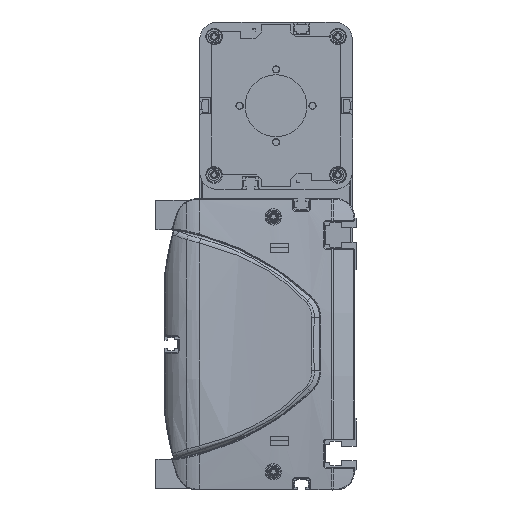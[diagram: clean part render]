
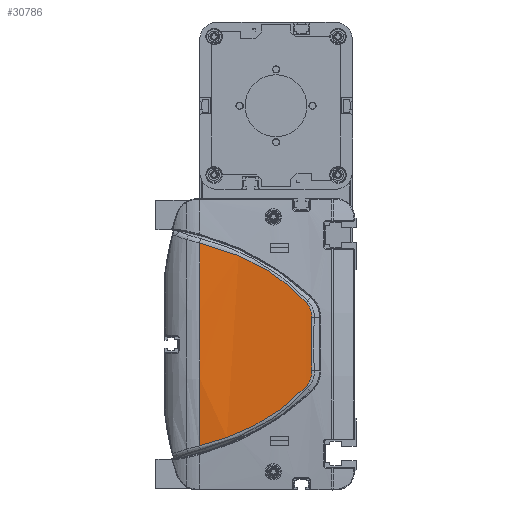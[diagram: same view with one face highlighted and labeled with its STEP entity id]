
A CAD part, left-side view. The second image highlights one B-rep face of the part: STEP entity #30786.
In plain terms, the highlighted cylindrical face has radius 600 mm (diameter 1200 mm), a partial arc.
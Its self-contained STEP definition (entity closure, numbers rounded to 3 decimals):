
#6171=CARTESIAN_POINT('',(-12.406,86.,55.736));
#6172=CARTESIAN_POINT('',(-12.529,80.495,54.41));
#6173=CARTESIAN_POINT('',(-12.828,69.636,51.114));
#6174=CARTESIAN_POINT('',(-13.389,54.079,44.179));
#6175=CARTESIAN_POINT('',(-14.01,39.709,34.979));
#6176=CARTESIAN_POINT('',(-14.395,31.353,27.243));
#6177=CARTESIAN_POINT('',(-14.555,27.451,23.113));
#6179=CARTESIAN_POINT('',(-14.555,27.451,23.113));
#6180=CARTESIAN_POINT('',(-14.641,25.336,20.875));
#6181=CARTESIAN_POINT('',(-14.745,24.202,17.745));
#6182=CARTESIAN_POINT('',(-14.821,24.351,14.67));
#6184=CARTESIAN_POINT('',(-14.821,24.351,14.67));
#6185=CARTESIAN_POINT('',(-14.9,24.51,11.413));
#6186=CARTESIAN_POINT('',(-15.007,24.721,4.895));
#6187=CARTESIAN_POINT('',(-15.007,24.721,
-4.895));
#6188=CARTESIAN_POINT('',(-14.9,24.51,
-11.413));
#6189=CARTESIAN_POINT('',(-14.821,24.351,
-14.67));
#6191=CARTESIAN_POINT('',(-14.821,24.351,
-14.67));
#6192=CARTESIAN_POINT('',(-14.745,24.202,
-17.745));
#6193=CARTESIAN_POINT('',(-14.641,25.337,
-20.876));
#6194=CARTESIAN_POINT('',(-14.555,27.451,
-23.113));
#6196=CARTESIAN_POINT('',(-14.555,27.451,
-23.113));
#6197=CARTESIAN_POINT('',(-14.395,31.353,
-27.243));
#6198=CARTESIAN_POINT('',(-14.01,39.709,
-34.979));
#6199=CARTESIAN_POINT('',(-13.389,54.079,
-44.179));
#6200=CARTESIAN_POINT('',(-12.828,69.636,
-51.114));
#6201=CARTESIAN_POINT('',(-12.529,80.495,
-54.41));
#6202=CARTESIAN_POINT('',(-12.406,86.,
-55.736));
#6204=CARTESIAN_POINT('',(585.,86.,0.));
#6205=DIRECTION('',(0.,1.,0.));
#6206=DIRECTION('',(-0.996,0.,-0.093));
#6207=AXIS2_PLACEMENT_3D('',#6204,#6205,#6206);
#6220=CARTESIAN_POINT('',(-12.406,86.,55.736));
#19584=VERTEX_POINT('',#6220);
#19585=CARTESIAN_POINT('',(-12.406,86.,
-55.736));
#19586=VERTEX_POINT('',#19585);
#19636=VERTEX_POINT('',#6177);
#19637=VERTEX_POINT('',#6182);
#19638=VERTEX_POINT('',#6189);
#19639=VERTEX_POINT('',#6194);
#30768=CARTESIAN_POINT('',(585.,87.45,0.));
#30769=DIRECTION('',(0.,-1.,0.));
#30770=DIRECTION('',(0.,0.,-1.));
#30771=AXIS2_PLACEMENT_3D('',#30768,#30769,#30770);
#30772=CYLINDRICAL_SURFACE('',#30771,600.);
#30774=ORIENTED_EDGE('',*,*,#30773,.T.);
#30776=ORIENTED_EDGE('',*,*,#30775,.T.);
#30777=ORIENTED_EDGE('',*,*,#30758,.T.);
#30779=ORIENTED_EDGE('',*,*,#30778,.T.);
#30781=ORIENTED_EDGE('',*,*,#30780,.T.);
#30783=ORIENTED_EDGE('',*,*,#30782,.T.);
#30784=EDGE_LOOP('',(#30774,#30776,#30777,#30779,#30781,#30783));
#30785=FACE_OUTER_BOUND('',#30784,.F.);
#30786=ADVANCED_FACE('',(#30785),#30772,.T.);
#6178=B_SPLINE_CURVE_WITH_KNOTS('',3,(#6171,#6172,#6173,#6174,#6175,#6176,
#6177),.UNSPECIFIED.,.F.,.F.,(4,1,1,1,4),(0.,0.25,0.5,0.75,1.),
.UNSPECIFIED.);
#6183=B_SPLINE_CURVE_WITH_KNOTS('',3,(#6179,#6180,#6181,#6182),.UNSPECIFIED.,
.F.,.F.,(4,4),(0.,1.),.UNSPECIFIED.);
#6190=B_SPLINE_CURVE_WITH_KNOTS('',3,(#6184,#6185,#6186,#6187,#6188,#6189),
.UNSPECIFIED.,.F.,.F.,(4,1,1,4),(0.,0.333,0.667,1.),
.UNSPECIFIED.);
#6195=B_SPLINE_CURVE_WITH_KNOTS('',3,(#6191,#6192,#6193,#6194),.UNSPECIFIED.,
.F.,.F.,(4,4),(0.,1.),.UNSPECIFIED.);
#6203=B_SPLINE_CURVE_WITH_KNOTS('',3,(#6196,#6197,#6198,#6199,#6200,#6201,
#6202),.UNSPECIFIED.,.F.,.F.,(4,1,1,1,4),(0.,0.25,0.5,0.75,1.),
.UNSPECIFIED.);
#6208=CIRCLE('',#6207,600.);
#30758=EDGE_CURVE('',#19637,#19638,#6190,.T.);
#30773=EDGE_CURVE('',#19584,#19636,#6178,.T.);
#30775=EDGE_CURVE('',#19636,#19637,#6183,.T.);
#30778=EDGE_CURVE('',#19638,#19639,#6195,.T.);
#30780=EDGE_CURVE('',#19639,#19586,#6203,.T.);
#30782=EDGE_CURVE('',#19586,#19584,#6208,.T.);
